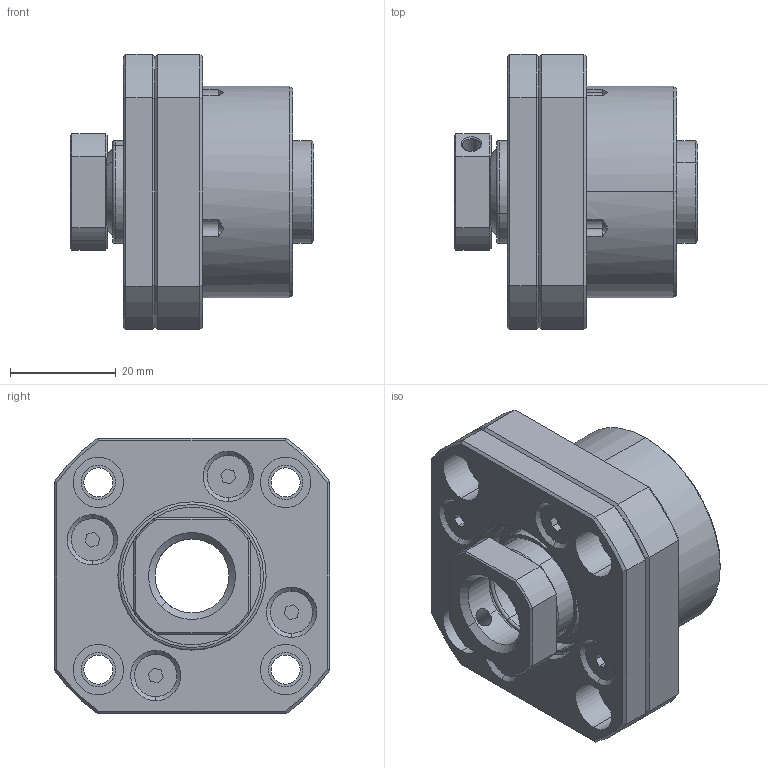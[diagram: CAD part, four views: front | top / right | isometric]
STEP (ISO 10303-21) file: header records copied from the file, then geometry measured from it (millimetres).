
FILE_DESCRIPTION (( 'STEP AP203' ), '1' );
FILE_NAME ('FK15²Õ¦XA.STEP', '2017-12-28T05:35:44', ( '' ), ( '' ), 'SwSTEP 2.0', 'SolidWorks 2017', '' );
FILE_SCHEMA (( 'CONFIG_CONTROL_DESIGN' ));
Length unit declared in the file: millimetre
Products named in the file (1): FK15組合A
Bounding box: 46 x 52 x 52 mm (x, y, z)
Surface area: 19250.6 mm2 (no closed solid volume)
Topology: 0 solids, 12 shells, 216 faces, 569 edges, 365 vertices
Faces by surface type: plane 77, cylinder 71, cone 46, torus 18, bspline 4
Entity records: 7217 total; most frequent: CARTESIAN_POINT 1771, DIRECTION 1186, ORIENTED_EDGE 1013, EDGE_CURVE 569, AXIS2_PLACEMENT_3D 478, VERTEX_POINT 365, CIRCLE 265, EDGE_LOOP 256
